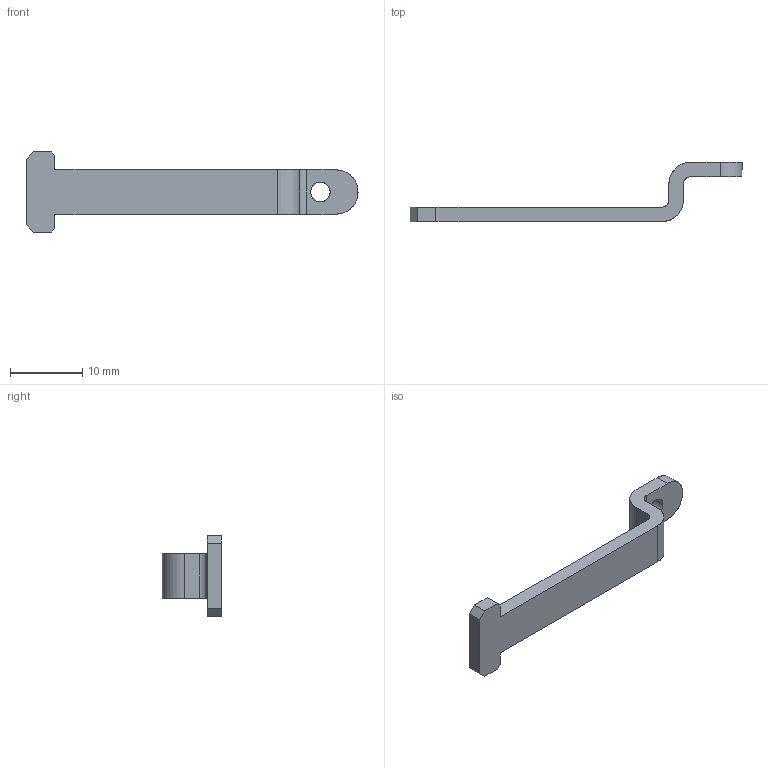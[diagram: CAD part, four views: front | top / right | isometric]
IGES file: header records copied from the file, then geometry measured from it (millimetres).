
Start section: SolidWorks IGES FILE using analytic representation for surfaces
Global section: file name: C:\Documents and Settings\lecoutey\Bureau\GP 1075\29.070.10.IGS; native system: SolidWorks 2004 by SolidWorks Corporation; preprocessor: Version 5.3; author: lecoutey; date: 050329.153603; units: millimetre
Bounding box: 45.9 x 8.2 x 11.1 mm (x, y, z)
Surface area: 887.2 mm2 (no closed solid volume)
Topology: 0 solids, 0 shells, 26 faces, 288 edges, 288 vertices
Faces by surface type: bspline 18, revolution 8
